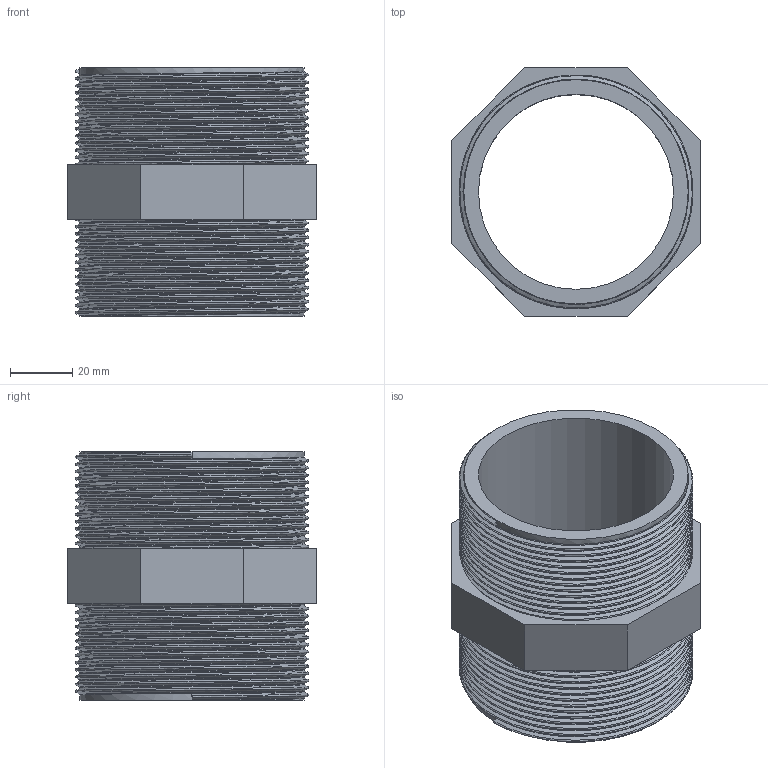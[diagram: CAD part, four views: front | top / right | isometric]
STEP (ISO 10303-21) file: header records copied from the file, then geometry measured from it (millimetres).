
FILE_DESCRIPTION(/* description */ ('PVC-U nipplo filettato BSP'),/* implementation_level */ '2;1');
FILE_NAME(/* name */ 'C:\Users\POLYPIPE\Desktop\DATASET INVENTOR\LIBRERIA EFFAST\RACCORDI 3DxWEB\RER\3D_RERNIE\3D_RERNIE075H.stp',/* time_stamp */ '2018-01-19T16:43:31+01:00',/* author */ ('POLYPIPE'),/* organization */ ('Polypipe Italia s.r.l.'),/* preprocessor_version */ 'ST-DEVELOPER v16.1',/* originating_system */ 'Autodesk Inventor 2016',/* authorisation */ '');
FILE_SCHEMA (('CONFIG_CONTROL_DESIGN'));
Length unit declared in the file: millimetre
Products named in the file (1): 3D_RERNIE
Bounding box: 80 x 80 x 80 mm (x, y, z)
Volume: 111874.9 mm3; surface area: 48792.4 mm2
Topology: 1 solids, 1 shells, 27 faces, 63 edges, 40 vertices
Faces by surface type: plane 14, bspline 10, cylinder 3
Full cylindrical faces by diameter (mm): 62.8 x1, 72.226 x2
Entity records: 10832 total; most frequent: CARTESIAN_POINT 10254, ORIENTED_EDGE 124, DIRECTION 86, EDGE_CURVE 62, VERTEX_POINT 40, EDGE_LOOP 32, LINE 30, VECTOR 30
